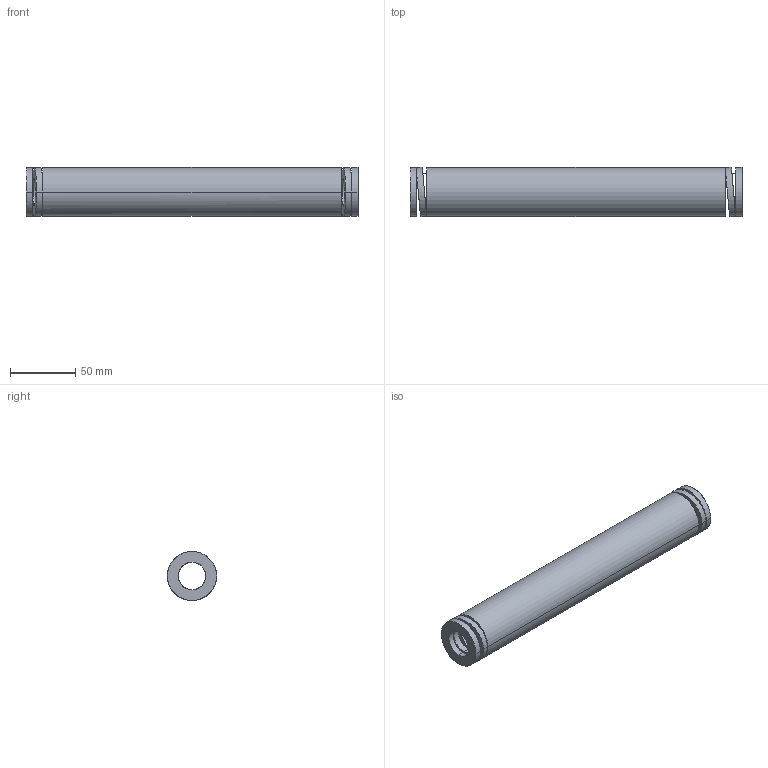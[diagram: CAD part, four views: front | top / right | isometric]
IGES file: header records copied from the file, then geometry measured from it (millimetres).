
Start section: START RECORD GO HERE.
Global section: file name: 392-B40-254.igs; native system: DASSAULT SYSTEMES CATIA V5 R20 - www.3ds.com; preprocessor: CATIA Version 5 Release 20 ; author: Utente; organization: NB04-ASUS; date: 20210813.131033; units: millimetre
Bounding box: 254 x 37.77 x 37.5 mm (x, y, z)
Surface area: 53038.2 mm2 (no closed solid volume)
Topology: 0 solids, 0 shells, 38 faces, 184 edges, 184 vertices
Faces by surface type: revolution 28, plane 10
